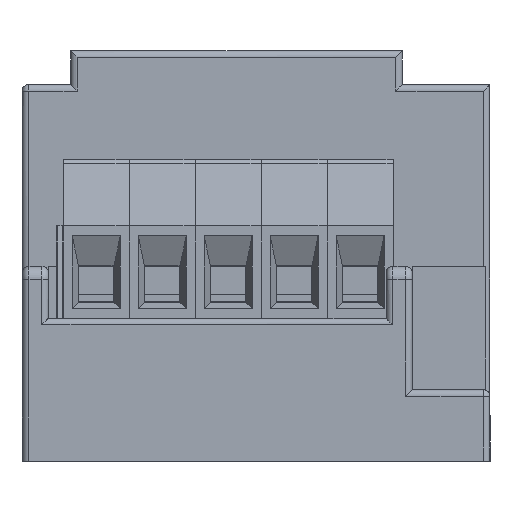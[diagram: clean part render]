
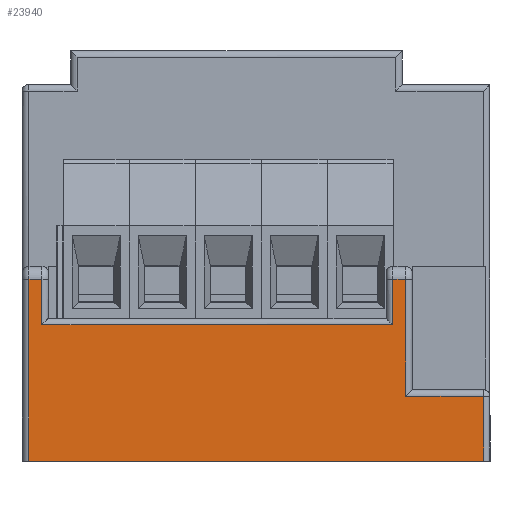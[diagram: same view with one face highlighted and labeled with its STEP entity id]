
A CAD part, front view. The second image highlights one B-rep face of the part: STEP entity #23940.
In plain terms, the highlighted planar face has unit normal (0, -1, 0).
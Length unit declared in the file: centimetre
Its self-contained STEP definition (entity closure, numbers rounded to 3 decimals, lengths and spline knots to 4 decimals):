
#4025=VERTEX_POINT('',#46054);
#4026=VERTEX_POINT('',#46056);
#4069=VERTEX_POINT('',#46171);
#4072=VERTEX_POINT('',#46178);
#4083=VERTEX_POINT('',#46212);
#4086=VERTEX_POINT('',#46219);
#4092=VERTEX_POINT('',#46330);
#4097=VERTEX_POINT('',#46346);
#4098=VERTEX_POINT('',#46353);
#4099=VERTEX_POINT('',#46355);
#6941=EDGE_CURVE('',#4026,#4025,#27288,.T.);
#7004=EDGE_CURVE('',#4069,#4072,#27315,.T.);
#7026=EDGE_CURVE('',#4083,#4086,#27328,.T.);
#7037=EDGE_CURVE('',#4092,#4025,#27333,.T.);
#7043=EDGE_CURVE('',#4097,#4092,#27336,.T.);
#7044=EDGE_CURVE('',#4072,#4097,#27337,.T.);
#7046=EDGE_CURVE('',#4098,#4069,#27339,.T.);
#7047=EDGE_CURVE('',#4099,#4098,#27340,.T.);
#7048=EDGE_CURVE('',#4086,#4099,#27341,.T.);
#7049=EDGE_CURVE('',#4026,#4083,#27342,.T.);
#11575=ORIENTED_EDGE('',*,*,#7004,.F.);
#11576=ORIENTED_EDGE('',*,*,#7046,.F.);
#11577=ORIENTED_EDGE('',*,*,#7047,.F.);
#11578=ORIENTED_EDGE('',*,*,#7048,.F.);
#11579=ORIENTED_EDGE('',*,*,#7026,.F.);
#11580=ORIENTED_EDGE('',*,*,#7049,.F.);
#11581=ORIENTED_EDGE('',*,*,#6941,.T.);
#11582=ORIENTED_EDGE('',*,*,#7037,.F.);
#11583=ORIENTED_EDGE('',*,*,#7043,.F.);
#11584=ORIENTED_EDGE('',*,*,#7044,.F.);
#20370=EDGE_LOOP('',(#11575,#11576,#11577,#11578,#11579,#11580,#11581,#11582,
#11583,#11584));
#22157=FACE_BOUND('',#20370,.T.);
#23940=ADVANCED_FACE('',(#22157),#37189,.T.);
#27288=LINE('',#46055,#34092);
#27315=LINE('',#46183,#34119);
#27328=LINE('',#46225,#34132);
#27333=LINE('',#46335,#34137);
#27336=LINE('',#46347,#34140);
#27337=LINE('',#46349,#34141);
#27339=LINE('',#46352,#34143);
#27340=LINE('',#46354,#34144);
#27341=LINE('',#46356,#34145);
#27342=LINE('',#46357,#34146);
#31547=AXIS2_PLACEMENT_3D('',#46351,#38933,$);
#34092=VECTOR('',#38728,1.);
#34119=VECTOR('',#38852,1.);
#34132=VECTOR('',#38892,1.);
#34137=VECTOR('',#38915,1.);
#34140=VECTOR('',#38928,1.);
#34141=VECTOR('',#38931,1.);
#34143=VECTOR('',#38934,1.);
#34144=VECTOR('',#38935,1.);
#34145=VECTOR('',#38936,1.);
#34146=VECTOR('',#38937,1.);
#37189=PLANE('',#31547);
#38728=DIRECTION('',(1.,0.,0.));
#38852=DIRECTION('',(1.,0.,0.));
#38892=DIRECTION('',(1.,0.,0.));
#38915=DIRECTION('',(0.,0.,-1.));
#38928=DIRECTION('',(1.,0.,0.));
#38931=DIRECTION('',(0.,0.,-1.));
#38933=DIRECTION('',(0.,-1.,0.));
#38934=DIRECTION('',(0.,0.,1.));
#38935=DIRECTION('',(1.,0.,0.));
#38936=DIRECTION('',(0.,0.,-1.));
#38937=DIRECTION('',(0.,0.,1.));
#46054=CARTESIAN_POINT('',(-0.05,0.,0.));
#46055=CARTESIAN_POINT('',(-3.6,0.,0.));
#46056=CARTESIAN_POINT('',(-3.55,0.,0.));
#46171=CARTESIAN_POINT('',(-0.75,0.,1.4));
#46178=CARTESIAN_POINT('',(-0.65,0.,1.4));
#46183=CARTESIAN_POINT('',(-1.7829,0.,1.4));
#46212=CARTESIAN_POINT('',(-3.55,0.,1.4));
#46219=CARTESIAN_POINT('',(-3.45,0.,1.4));
#46225=CARTESIAN_POINT('',(-1.7829,0.,1.4));
#46330=CARTESIAN_POINT('',(-0.05,0.,0.5));
#46335=CARTESIAN_POINT('',(-0.05,0.,0.));
#46346=CARTESIAN_POINT('',(-0.65,0.,0.5));
#46347=CARTESIAN_POINT('',(-1.8,0.,0.5));
#46349=CARTESIAN_POINT('',(-0.65,0.,0.275));
#46351=CARTESIAN_POINT('',(-1.8,0.,0.));
#46352=CARTESIAN_POINT('',(-0.75,0.,0.55));
#46353=CARTESIAN_POINT('',(-0.75,0.,1.05));
#46354=CARTESIAN_POINT('',(-1.79,0.,1.05));
#46355=CARTESIAN_POINT('',(-3.45,0.,1.05));
#46356=CARTESIAN_POINT('',(-3.45,0.,0.55));
#46357=CARTESIAN_POINT('',(-3.55,0.,0.));
